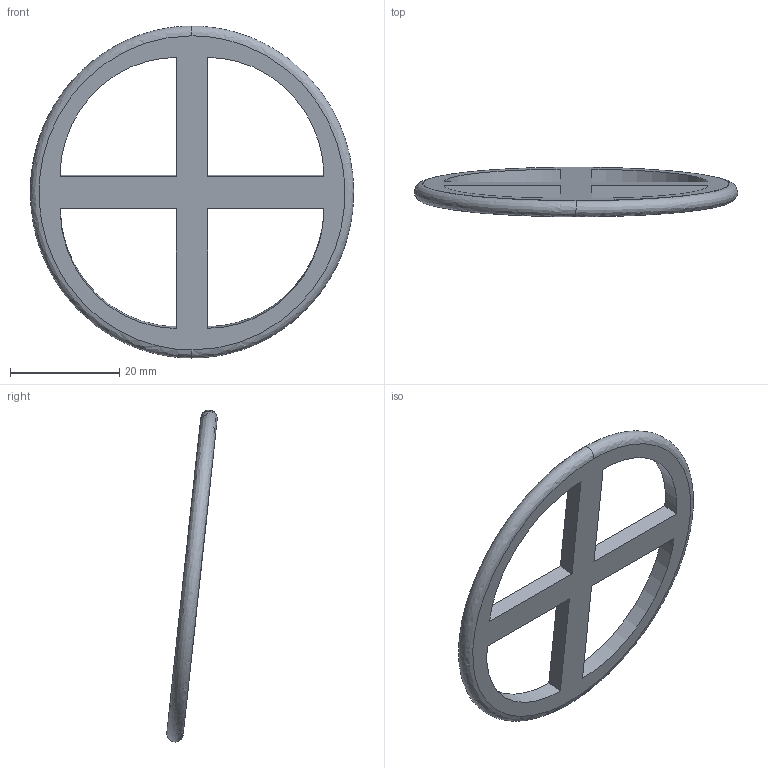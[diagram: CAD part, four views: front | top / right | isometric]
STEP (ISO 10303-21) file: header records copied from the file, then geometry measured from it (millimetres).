
FILE_DESCRIPTION(/* description */ (''),/* implementation_level */ '2;1');
FILE_NAME(/* name */ 'L-NARR~3',/* time_stamp */ '2020-04-10T21:41:19+03:00',/* author */ (''),/* organization */ (''),/* preprocessor_version */ 'ST-DEVELOPER v16.5',/* originating_system */ '',/* authorisation */ '');
FILE_SCHEMA (('AUTOMOTIVE_DESIGN'));
Length unit declared in the file: millimetre
Products named in the file (1): Document
Bounding box: 59.15 x 9.2 x 60.75 mm (x, y, z)
Volume: 3917 mm3; surface area: 3979.3 mm2
Topology: 1 solids, 1 shells, 18 faces, 46 edges, 30 vertices
Faces by surface type: plane 10, bspline 8
Entity records: 1332 total; most frequent: CARTESIAN_POINT 1006, ORIENTED_EDGE 92, EDGE_CURVE 46, VERTEX_POINT 30, EDGE_LOOP 26, B_SPLINE_CURVE_WITH_KNOTS 24, ADVANCED_FACE 18, FACE_OUTER_BOUND 18
